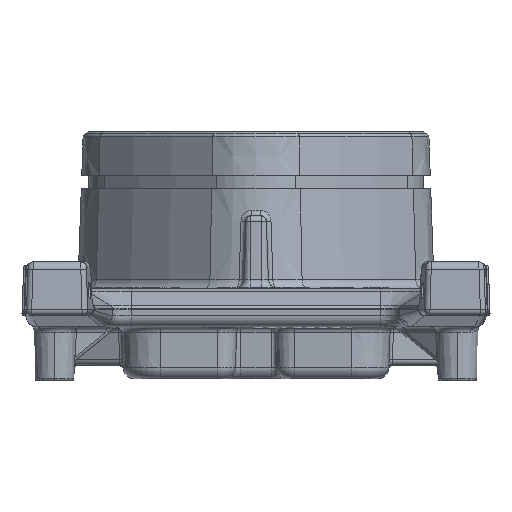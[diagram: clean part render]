
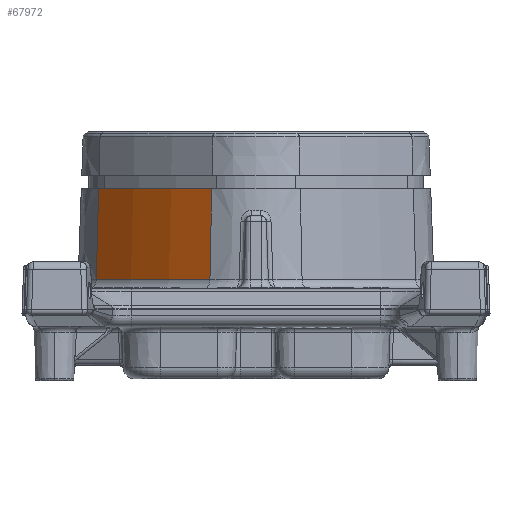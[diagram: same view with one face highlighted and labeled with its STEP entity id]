
A CAD part, left-side view. The second image highlights one B-rep face of the part: STEP entity #67972.
In plain terms, the highlighted conical face has half-angle 2 degrees and reference radius 150 mm.
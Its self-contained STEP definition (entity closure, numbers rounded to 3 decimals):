
#24194=AXIS2_PLACEMENT_3D('Circle Axis2P3D',#24192,#24193,$) ;
#67945=AXIS2_PLACEMENT_3D('Cone Axis2P3D',#67942,#67943,#67944) ;
#67956=AXIS2_PLACEMENT_3D('Circle Axis2P3D',#67954,#67955,$) ;
#22225=CARTESIAN_POINT('Vertex',(-78.109,12.014,-12.087)) ;
#24165=CARTESIAN_POINT('Vertex',(-50.515,41.656,-12.087)) ;
#24192=CARTESIAN_POINT('Axis2P3D Location',(45.084,-75.,-12.087)) ;
#67942=CARTESIAN_POINT('Axis2P3D Location',(45.084,-75.,11.5)) ;
#67947=CARTESIAN_POINT('Line Origine',(-77.693,11.72,2.5)) ;
#67951=CARTESIAN_POINT('Vertex',(-77.436,11.538,11.5)) ;
#67954=CARTESIAN_POINT('Axis2P3D Location',(45.084,-75.,11.5)) ;
#67958=CARTESIAN_POINT('Vertex',(-49.993,41.019,11.5)) ;
#67961=CARTESIAN_POINT('Line Origine',(-50.192,41.262,2.5)) ;
#24193=DIRECTION('Axis2P3D Direction',(0.,-0.,1.)) ;
#67943=DIRECTION('Axis2P3D Direction',(-0.,-0.,-1.)) ;
#67944=DIRECTION('Axis2P3D XDirection',(-0.634,0.773,0.)) ;
#67948=DIRECTION('Vector Direction',(-0.029,0.02,-0.999)) ;
#67955=DIRECTION('Axis2P3D Direction',(0.,0.,1.)) ;
#67962=DIRECTION('Vector Direction',(-0.022,0.027,-0.999)) ;
#67949=VECTOR('Line Direction',#67948,1.) ;
#67963=VECTOR('Line Direction',#67962,1.) ;
#67967=ORIENTED_EDGE('',*,*,#24196,.F.) ;
#67968=ORIENTED_EDGE('',*,*,#67953,.T.) ;
#67969=ORIENTED_EDGE('',*,*,#67960,.F.) ;
#67970=ORIENTED_EDGE('',*,*,#67965,.F.) ;
#67972=ADVANCED_FACE('Hold frame . Inveor MB Wand MET - HALTERAHMEN INVEOR MB WANDMONTAGE.1\\PartBody',(#67971),#67946,.T.) ;
#24195=CIRCLE('generated circle',#24194,150.824) ;
#67957=CIRCLE('generated circle',#67956,150.) ;
#67946=CONICAL_SURFACE('Cone',#67945,150.,0.035) ;
#24196=EDGE_CURVE('',#22226,#24166,#24195,.F.) ;
#67953=EDGE_CURVE('',#22226,#67952,#67950,.F.) ;
#67960=EDGE_CURVE('',#67959,#67952,#67957,.T.) ;
#67965=EDGE_CURVE('',#24166,#67959,#67964,.F.) ;
#67966=EDGE_LOOP('',(#67967,#67968,#67969,#67970)) ;
#67971=FACE_OUTER_BOUND('',#67966,.T.) ;
#67950=LINE('Line',#67947,#67949) ;
#67964=LINE('Line',#67961,#67963) ;
#22226=VERTEX_POINT('',#22225) ;
#24166=VERTEX_POINT('',#24165) ;
#67952=VERTEX_POINT('',#67951) ;
#67959=VERTEX_POINT('',#67958) ;
